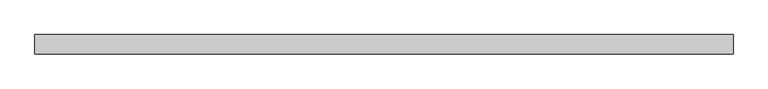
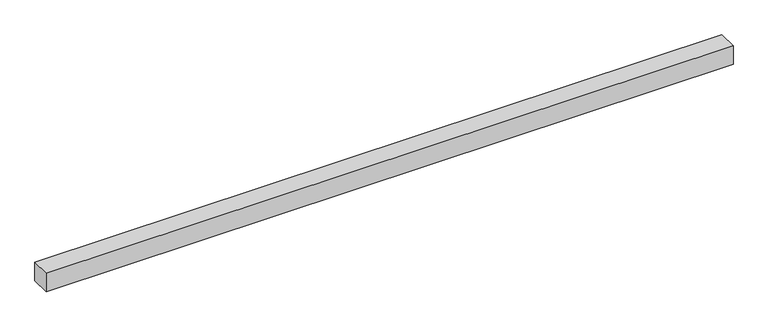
"""IFC4 building model written with IfcOpenShell, lengths in millimetres: proxy geometry, ▲GM_ОКЛ_Плита : ДваФ."""

from ifc_helpers import new_model, si_unit, origin, origin_with_axes, place, context, project, spatial, polyline, outline, extrude, source, transform, mapped, element, save


def generic_models_31e6af35(model_context):
    return source(origin(), model_context, "Body", "SweptSolid", [
        extrude(outline(polyline([(1250.0, 35.0), (1250.0, -35.0), (-1250.0, -35.0), (-1250.0, 35.0), (1250.0, 35.0)])), origin_with_axes(), (0.0, 0.0, 1.0), 70.0),
    ])


if __name__ == "__main__":
    model = new_model("IFC4")
    model_context = context("Model", 3, world=origin())
    ifc_project = project(units=[si_unit("LENGTHUNIT", "METRE", prefix="MILLI")], contexts=[model_context])
    site = spatial("IfcSite", under=ifc_project)
    building = spatial("IfcBuilding", under=site)
    placement = place(None, origin())
    generic_models_shape = generic_models_31e6af35(model_context)
    element("IfcBuildingElementProxy", 1, Name="▲GM_ОКЛ_Плита : ДваФ", ObjectType="▲GM_ОКЛ_Плита : ДваФ", at=placement, inside=building, context=model_context, shape_type="MappedRepresentation", body=[
        mapped(generic_models_shape, transform((0.0, 0.0, 0.0), x_axis=(1.0, 0.0, 0.0), y_axis=(0.0, 1.0, 0.0), z_axis=(0.0, 0.0, 1.0))),
    ])
    save(model, "model.ifc")
